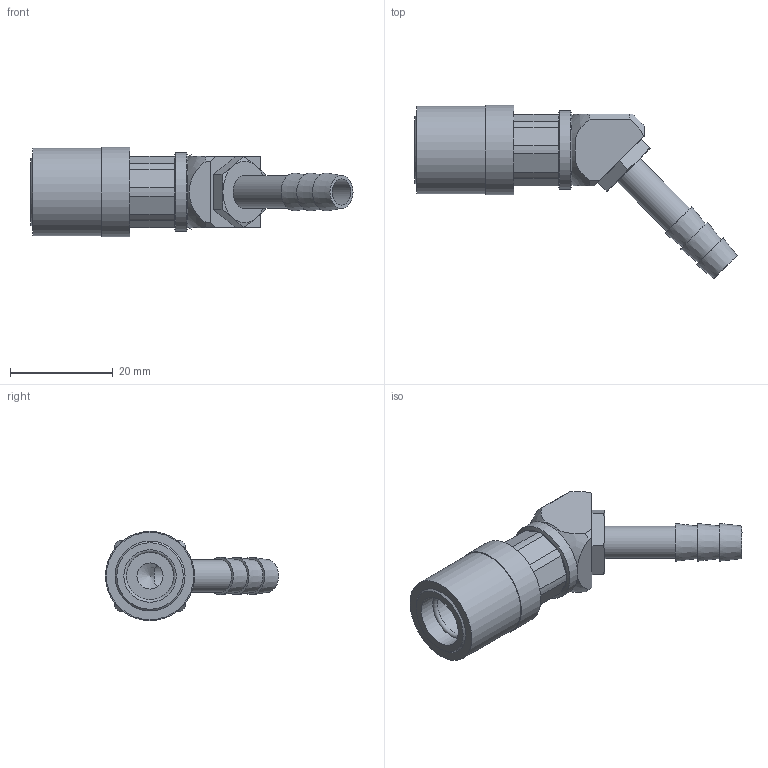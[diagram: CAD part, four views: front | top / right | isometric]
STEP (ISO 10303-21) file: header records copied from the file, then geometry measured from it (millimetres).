
FILE_DESCRIPTION(/* description */ ('STEP AP214'),/* implementation_level */ '2;1');
FILE_NAME(/* name */ 'JS-224-V',/* time_stamp */ '2024-12-19T08:42:10+01:00',/* author */ ('License CC BY-ND 4.0'),/* organization */ ('CADENAS'),/* preprocessor_version */ 'ST-DEVELOPER v19.3',/* originating_system */ 'PARTsolutions',/* authorisation */ ' ');
FILE_SCHEMA (('AUTOMOTIVE_DESIGN {1 0 10303 214 3 1 1}'));
Length unit declared in the file: inch
Products named in the file (1): JS-224-V
Bounding box: 62.7 x 33.69 x 17.36 mm (x, y, z)
Volume: 7274.7 mm3; surface area: 4656.7 mm2
Topology: 1 solids, 1 shells, 82 faces, 178 edges, 115 vertices
Faces by surface type: plane 56, cone 13, cylinder 9, sphere 3, torus 1
Full cylindrical faces by diameter (mm): 5.08 x2, 6.35 x1, 10.211 x2, 13.97 x1, 15.367 x1, 17.018 x1, 17.358 x1
Entity records: 2175 total; most frequent: CARTESIAN_POINT 391, DIRECTION 388, ORIENTED_EDGE 310, AXIS2_PLACEMENT_3D 163, EDGE_CURVE 155, FACE_BOUND 120, EDGE_LOOP 119, VERTEX_POINT 111
